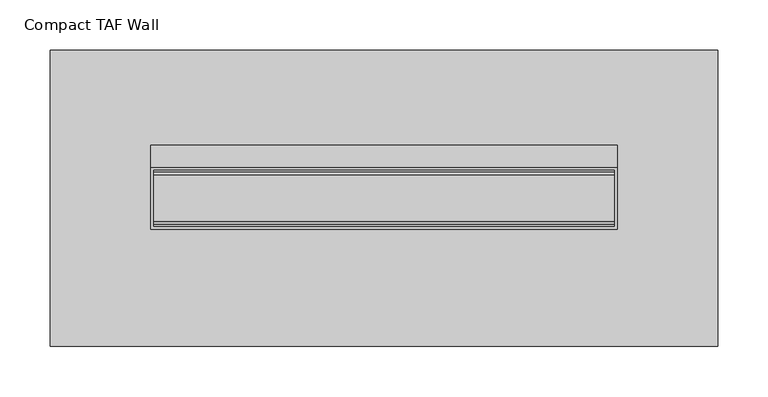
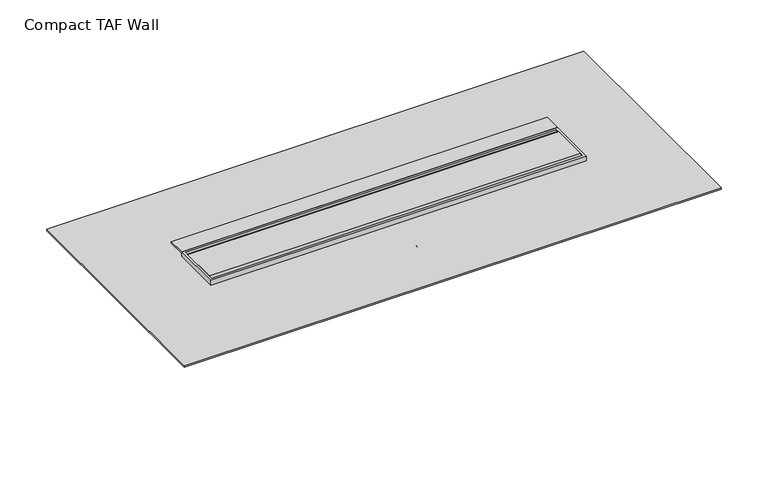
"""IFC4 building model written with IfcOpenShell, lengths in millimetres: sanitary terminal geometry, NLRS_PF_52_UN_Compact TAF_Easydrain : Compact TAF Wall."""

from ifc_helpers import new_model, si_unit, point, frame, frame_2d, origin, place, context, project, spatial, polyline, circle_curve, ellipse_curve, trimmed, segment, composite_curve, outline, extrude, source, transform, mapped, element, save
from ifc_brep_helpers import plane_surface, cylinder_surface, advanced_brep


def compact_taf_wall_0f2e0b1c(model_context):
    return source(origin(), model_context, "Body", "SolidModel", [
        extrude(outline(composite_curve([segment(polyline([(-23.0, 0.0), (23.0, 0.0)]), True, "CONTINUOUS"), segment(trimmed(circle_curve(frame_2d((23.0, -3.0)), 3.0), [point((23.0, 0.0))], [point((26.0, -3.0))], False, "CARTESIAN"), True, "CONTINUOUS"), segment(polyline([(26.0, -3.0), (26.0, -12.0), (-26.0, -12.0), (-26.0, -3.0)]), True, "CONTINUOUS"), segment(trimmed(circle_curve(frame_2d((-23.0, -3.0)), 3.0), [point((-26.0, -3.0))], [point((-23.0, 0.0))], False, "CARTESIAN"), True, "CONTINUOUS")], self_intersect=False)), frame((-229.5, 0.0, 0.0), z_axis=(1.0, 0.0, 0.0), x_axis=(0.0, 1.0, 0.0)), (0.0, 0.0, 1.0), 459.0),
        extrude(outline(polyline([(232.5, 53.0), (232.5, 31.0), (-232.5, 31.0), (-232.5, 53.0), (232.5, 53.0)])), frame((0.0, 0.0, -2.0), z_axis=(0.0, 0.0, 1.0), x_axis=(1.0, 0.0, 0.0)), (0.0, 0.0, 1.0), 2.0),
        extrude(outline(polyline([(332.5, 147.5), (332.5, -147.5), (-332.5, -147.5), (-332.5, 147.5), (332.5, 147.5)]), holes=[polyline([(232.5, 31.0), (-232.5, 31.0), (-232.5, -31.0), (232.5, -31.0), (232.5, 31.0)])]), frame((0.0, 0.0, -8.0), z_axis=(0.0, 0.0, 1.0), x_axis=(1.0, 0.0, 0.0)), (0.0, 0.0, 1.0), 2.0),
        advanced_brep(
        [(-232.5, -31.0, -25.0), (-110.0, -31.0, -27.0), (-110.0, -31.0, -90.0), (110.0, -31.0, -90.0), (110.0, -31.0, -27.0), (232.5, -31.0, -25.0), (232.5, -31.0, -9.0), (-232.5, -31.0, -9.0), (0.0, -31.0, -30.0), (0.0, -31.0, -80.0), (232.5, -31.0, 0.0), (-232.5, -31.0, 0.0), (-232.5, -31.0, -7.0), (232.5, -31.0, -7.0), (-232.5, 31.0, 0.0), (232.5, 31.0, 0.0), (232.5, 31.0, -7.0), (-232.5, 31.0, -7.0), (232.5, 31.0, -25.0), (110.0, 31.0, -27.0), (110.0, 31.0, -90.0), (-110.0, 31.0, -90.0), (-110.0, 31.0, -27.0), (-232.5, 31.0, -25.0), (-232.5, 31.0, -9.0), (232.5, 31.0, -9.0), (-212.5, 0.0, -25.3265306), (-172.5, 0.0, -25.9795918), (232.5, 30.0, -9.0), (232.5, -30.0, -9.0), (232.5, -30.0, -7.0), (232.5, 30.0, -7.0), (-229.5, 28.0, 0.0), (229.5, 28.0, 0.0), (229.5, -28.0, 0.0), (-229.5, -28.0, 0.0), (-232.5, -30.0, -9.0), (-232.5, 30.0, -9.0), (-232.5, 30.0, -7.0), (-232.5, -30.0, -7.0), (172.5, 0.0, -25.9795918), (212.5, 0.0, -25.3265306), (0.0, -50.0, -30.0), (0.0, -50.0, -80.0), (229.5, 28.0, -12.0), (-229.5, 28.0, -12.0), (-229.5, -28.0, -12.0), (229.5, -28.0, -12.0), (250.0, 47.5, -7.0), (-250.0, 47.5, -7.0), (-250.0, -64.5, -7.0), (250.0, -64.5, -7.0), (250.0, 47.5, -9.0), (250.0, -64.5, -9.0), (-250.0, -64.5, -9.0), (-250.0, 47.5, -9.0), (-212.5, 0.0, -90.0), (-172.5, 0.0, -90.0), (172.5, 0.0, -90.0), (212.5, 0.0, -90.0)],
        [
            (0, 1),
            (1, 2),
            (2, 3),
            (3, 4),
            (4, 5),
            (5, 6),
            (6, 7),
            (7, 0),
            (8, 9, circle_curve(frame((0.0, -31.0, -55.0), z_axis=(0.0, 1.0, 0.0), x_axis=(0.0, 0.0, -1.0)), 25.0)),
            (9, 8, circle_curve(frame((0.0, -31.0, -55.0), z_axis=(0.0, 1.0, 0.0), x_axis=(0.0, 0.0, -1.0)), 25.0)),
            (10, 11),
            (11, 12),
            (12, 13),
            (13, 10),
            (14, 15),
            (15, 16),
            (16, 17),
            (17, 14),
            (18, 19),
            (19, 20),
            (20, 21),
            (21, 22),
            (22, 23),
            (23, 24),
            (24, 25),
            (25, 18),
            (0, 23),
            (22, 1),
            (26, 27, ellipse_curve(frame((-192.5, 0.0, -25.6530612), z_axis=(0.01632435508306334, 0.0, 0.9998667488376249), x_axis=(-0.9998667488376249, 0.0, 0.01632435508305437)), 20.0026654, 20.0)),
            (27, 26, ellipse_curve(frame((-192.5, 0.0, -25.6530612), z_axis=(0.01632435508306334, 0.0, 0.9998667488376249), x_axis=(-0.9998667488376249, 0.0, 0.01632435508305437)), 20.0026654, 20.0)),
            (5, 18),
            (25, 28),
            (28, 29),
            (29, 6),
            (15, 10),
            (13, 30),
            (30, 31),
            (31, 16),
            (14, 11),
            (32, 33),
            (33, 34),
            (34, 35),
            (35, 32),
            (7, 36),
            (36, 37),
            (37, 24),
            (17, 38),
            (38, 39),
            (39, 12),
            (21, 2),
            (20, 3),
            (19, 4),
            (40, 41, ellipse_curve(frame((192.5, 0.0, -25.6530612), z_axis=(-0.016324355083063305, 0.0, 0.9998667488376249), x_axis=(0.9998667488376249, 0.0, 0.016324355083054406)), 20.0026654, 20.0)),
            (41, 40, ellipse_curve(frame((192.5, 0.0, -25.6530612), z_axis=(-0.016324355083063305, 0.0, 0.9998667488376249), x_axis=(0.9998667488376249, 0.0, 0.016324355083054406)), 20.0026654, 20.0)),
            (42, 43, circle_curve(frame((0.0, -50.0, -55.0), z_axis=(0.0, -1.0, 0.0), x_axis=(0.0, 0.0, -1.0)), 25.0)),
            (43, 42, circle_curve(frame((0.0, -50.0, -55.0), z_axis=(0.0, -1.0, 0.0), x_axis=(0.0, 0.0, -1.0)), 25.0)),
            (43, 9),
            (8, 42),
            (44, 45),
            (45, 46),
            (46, 47),
            (47, 44),
            (44, 33),
            (32, 45),
            (35, 46),
            (34, 47),
            (48, 49),
            (49, 50),
            (50, 51),
            (51, 48),
            (52, 53),
            (53, 54),
            (54, 55),
            (55, 52),
            (48, 52),
            (55, 49),
            (54, 50),
            (53, 51),
            (56, 57, circle_curve(frame((-192.5, 0.0, -90.0), z_axis=(0.0, 0.0, -1.0), x_axis=(1.0, 0.0, 0.0)), 20.0)),
            (57, 56, circle_curve(frame((-192.5, 0.0, -90.0), z_axis=(0.0, 0.0, -1.0), x_axis=(1.0, 0.0, 0.0)), 20.0)),
            (58, 59, circle_curve(frame((192.5, 0.0, -90.0), z_axis=(0.0, 0.0, -1.0), x_axis=(1.0, 0.0, 0.0)), 20.0)),
            (59, 58, circle_curve(frame((192.5, 0.0, -90.0), z_axis=(0.0, 0.0, -1.0), x_axis=(1.0, 0.0, 0.0)), 20.0)),
            (57, 27),
            (26, 56),
            (59, 41),
            (40, 58),
        ],
        [
            plane_surface(frame((-232.5, -31.0, -25.0), z_axis=(0.0, -1.0000000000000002, 0.0), x_axis=(0.9998667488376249, 0.0, -0.01632435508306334))),
            plane_surface(frame((-232.5, 31.0, -25.0), z_axis=(0.0, 1.0000000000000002, 0.0), x_axis=(-0.9998667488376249, 0.0, 0.01632435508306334))),
            plane_surface(frame((-232.5, -31.0, -25.0), z_axis=(-0.01632435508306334, 0.0, -0.9998667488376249), x_axis=(0.0, 1.0, 0.0))),
            plane_surface(frame((232.5, -31.0, -25.0), z_axis=(1.0, 0.0, 0.0), x_axis=(0.0, 1.0, 0.0))),
            plane_surface(frame((232.5, -31.0, 0.0), z_axis=(0.0, 0.0, 1.0), x_axis=(0.0, 1.0, 0.0))),
            plane_surface(frame((-232.5, -31.0, 0.0), z_axis=(-1.0, 0.0, 0.0), x_axis=(0.0, 1.0, 0.0))),
            plane_surface(frame((-110.0, -31.0, -27.0), z_axis=(-1.0, 0.0, 0.0), x_axis=(0.0, 1.0, 0.0))),
            plane_surface(frame((-110.0, -31.0, -90.0), z_axis=(0.0, 0.0, -1.0), x_axis=(0.0, 1.0, 0.0))),
            plane_surface(frame((110.0, -31.0, -90.0), z_axis=(1.0, 0.0, 0.0), x_axis=(0.0, 1.0, 0.0))),
            plane_surface(frame((110.0, -31.0, -27.0), z_axis=(0.016324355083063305, 0.0, -0.9998667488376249), x_axis=(0.0, 1.0, 0.0))),
            plane_surface(frame((0.0, -50.0, -55.0), z_axis=(0.0, -1.0, 0.0), x_axis=(1.0, 0.0, 0.0))),
            cylinder_surface(frame((0.0, 0.0, -55.0), z_axis=(0.0, 1.0, 0.0), x_axis=(0.0, 0.0, -1.0)), 25.0),
            plane_surface(frame((-229.5, 28.0, -12.0), z_axis=(0.0, 0.0, 1.0), x_axis=(1.0, 0.0, 0.0))),
            plane_surface(frame((229.5, 28.0, 25.5943996), z_axis=(0.0, -1.0, 0.0), x_axis=(0.0, 0.0, -1.0))),
            plane_surface(frame((-229.5, 28.0, 25.5943996), z_axis=(1.0, 0.0, 0.0), x_axis=(0.0, 0.0, -1.0))),
            plane_surface(frame((-229.5, -28.0, 25.5943996), z_axis=(0.0, 1.0, 0.0), x_axis=(0.0, 0.0, -1.0))),
            plane_surface(frame((229.5, -28.0, 25.5943996), z_axis=(-1.0, 0.0, 0.0), x_axis=(0.0, 0.0, -1.0))),
            plane_surface(frame((232.5, 30.0, -7.0), z_axis=(0.0, 0.0, 1.0), x_axis=(0.0, -1.0, 0.0))),
            plane_surface(frame((232.5, 30.0, -9.0), z_axis=(0.0, 0.0, -1.0), x_axis=(0.0, 1.0, 0.0))),
            plane_surface(frame((250.0, 47.5, -7.0), z_axis=(0.0, 1.0, 0.0), x_axis=(0.0, 0.0, -1.0))),
            plane_surface(frame((-250.0, 47.5, -7.0), z_axis=(-1.0, 0.0, 0.0), x_axis=(0.0, 0.0, -1.0))),
            plane_surface(frame((-250.0, -64.5, -7.0), z_axis=(0.0, -1.0, 0.0), x_axis=(0.0, 0.0, -1.0))),
            plane_surface(frame((250.0, -64.5, -7.0), z_axis=(1.0, 0.0, 0.0), x_axis=(0.0, 0.0, -1.0))),
            plane_surface(frame((-172.5, 0.0, -90.0), z_axis=(0.0, 0.0, -1.0), x_axis=(0.0, -1.0, 0.0))),
            cylinder_surface(frame((-192.5, 0.0, -90.0), z_axis=(0.0, 0.0, 1.0), x_axis=(1.0, 0.0, 0.0)), 20.0),
            cylinder_surface(frame((192.5, 0.0, 0.0), z_axis=(0.0, 0.0, 1.0), x_axis=(1.0, 0.0, 0.0)), 20.0),
        ],
        [
            (0, [[1, 2, 3, 4, 5, 6, 7, 8], [9, 10]]),
            (0, [[11, 12, 13, 14]]),
            (1, [[15, 16, 17, 18]]),
            (1, [[19, 20, 21, 22, 23, 24, 25, 26]]),
            (2, [[-1, 27, -23, 28], [29, 30]]),
            (3, [[31, -26, 32, 33, 34, -6]]),
            (3, [[35, -14, 36, 37, 38, -16]]),
            (4, [[-11, -35, -15, 39], [40, 41, 42, 43]]),
            (5, [[-27, -8, 44, 45, 46, -24]]),
            (5, [[-39, -18, 47, 48, 49, -12]]),
            (6, [[-2, -28, -22, 50]]),
            (7, [[-3, -50, -21, 51]]),
            (8, [[-4, -51, -20, 52]]),
            (9, [[-5, -52, -19, -31], [53, 54]]),
            (10, [[55, 56]]),
            (11, [[-56, 57, -9, 58]]),
            (11, [[-55, -58, -10, -57]]),
            (12, [[59, 60, 61, 62]]),
            (13, [[-59, 63, -40, 64]]),
            (14, [[-60, -64, -43, 65]]),
            (15, [[-61, -65, -42, 66]]),
            (16, [[-62, -66, -41, -63]]),
            (17, [[67, 68, 69, 70], [-13, -49, -48, -47, -17, -38, -37, -36]]),
            (18, [[71, 72, 73, 74], [-7, -34, -33, -32, -25, -46, -45, -44]]),
            (19, [[-67, 75, -74, 76]]),
            (20, [[-68, -76, -73, 77]]),
            (21, [[-69, -77, -72, 78]]),
            (22, [[-70, -78, -71, -75]]),
            (23, [[79, 80]]),
            (23, [[81, 82]]),
            (24, [[-80, 83, -29, 84]]),
            (24, [[-79, -84, -30, -83]]),
            (25, [[-82, 85, -53, 86]]),
            (25, [[-81, -86, -54, -85]]),
        ],
    ),
    ])


if __name__ == "__main__":
    model = new_model("IFC4")
    model_context = context("Model", 3, world=origin())
    ifc_project = project(units=[si_unit("LENGTHUNIT", "METRE", prefix="MILLI")], contexts=[model_context])
    site = spatial("IfcSite", under=ifc_project)
    building = spatial("IfcBuilding", under=site)
    placement = place(None, origin())
    compact_taf_wall_shape = compact_taf_wall_0f2e0b1c(model_context)
    element("IfcSanitaryTerminal", 1, ObjectType="NLRS_PF_52_UN_Compact TAF_Easydrain : Compact TAF Wall", at=placement, inside=building, context=model_context, shape_type="MappedRepresentation", body=[
        mapped(compact_taf_wall_shape, transform((0.0, 0.0, 0.0), x_axis=(1.0, 0.0, 0.0), y_axis=(0.0, 1.0, 0.0), z_axis=(0.0, 0.0, 1.0))),
    ])
    save(model, "model.ifc")
